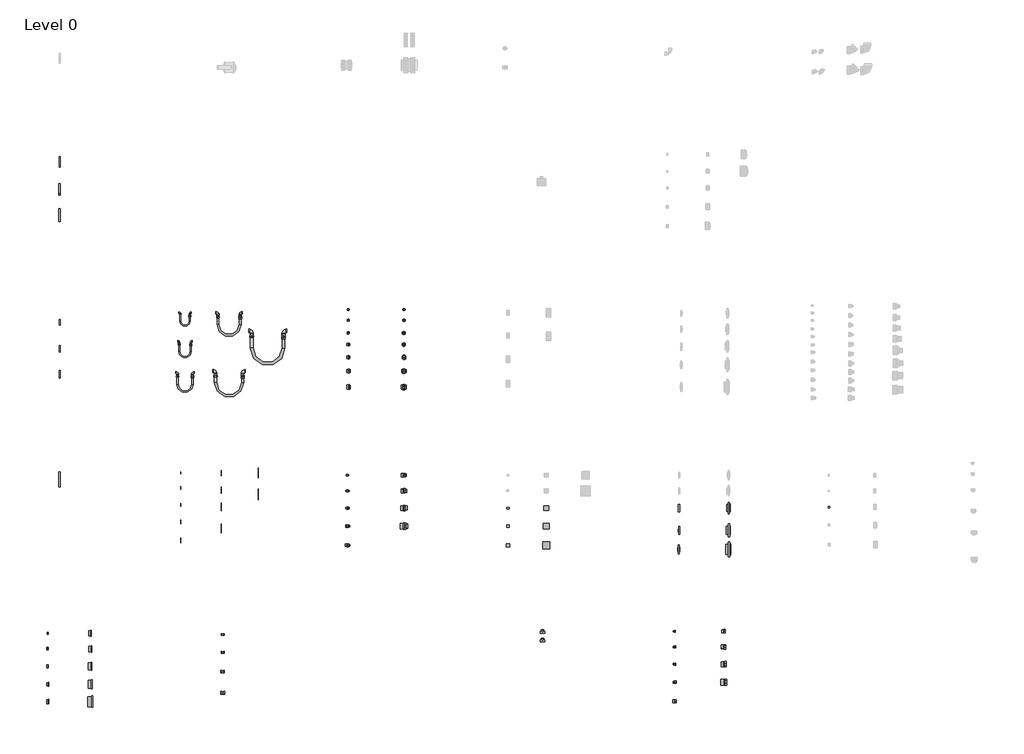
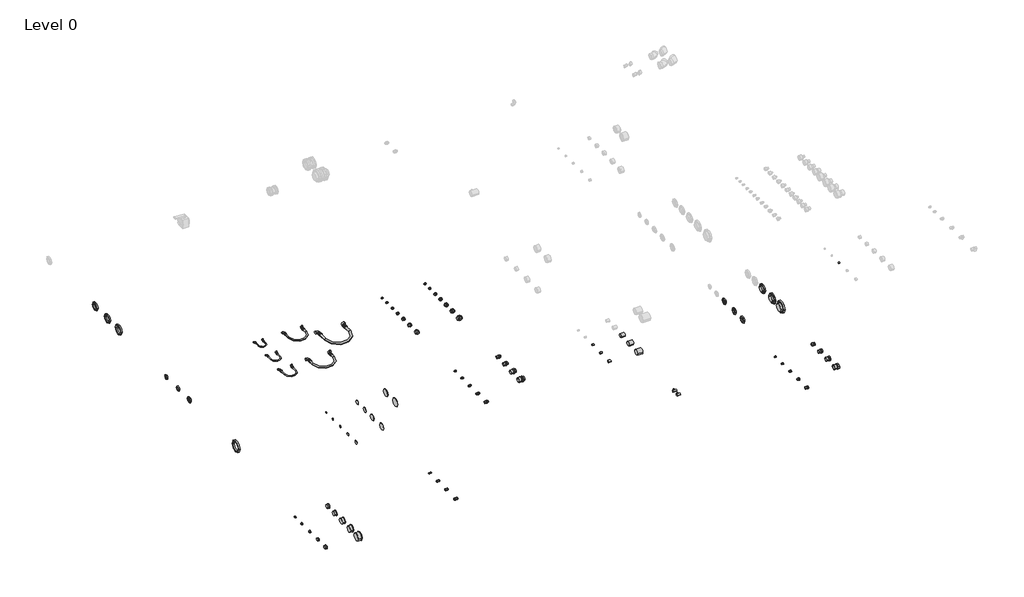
# One storey, part 1 of 3: 114 pipe fittings.
"""IFC4 building model written with IfcOpenShell, lengths in millimetres."""

from ifc_helpers import new_model, si_unit, origin, place, context, project, spatial, transform, mapped, element, save
from components import pipe_fitting_74fe0cda, pipe_fitting_26546776, pipe_fitting_7ebbfda9, pipe_fitting_af003660, pipe_fitting_4f39839b, pipe_fitting_48a578fe, pipe_fitting_dd4062d5, pipe_fitting_99158ac7, pipe_fitting_41a58208, pipe_fitting_e6044224, pipe_fitting_eb40a504, pipe_fitting_ad0d2320, pipe_fitting_09979d7b, pipe_fitting_f6b52654, pipe_fitting_aa44475f, pipe_fitting_78fec043, pipe_fitting_2d7bc59a, pipe_fitting_39144a0a, pipe_fitting_ed674d28, flangewithoutgasket_flangewithoutgasket_0e128e97, flangewithoutgasket_flangewithoutgasket_53bb87d2, flangewithoutgasket_flangewithoutgasket_258abd56, flangewithoutgasket_flangewithoutgasket_c11ec761, flangewithoutgasket_flangewithoutgasket_75658ef2, flangewithoutgasket_flangewithoutgasket_0f328faf, flangewithoutgasket_flangewithoutgasket_49f34aa9, flangewithoutgasket_flangewithoutgasket_a3025326, flangewithoutgasket_flangewithoutgasket_a6fb7cc9, flangewithoutgasket_flangewithoutgasket_14cefbc4, pn16black8holes_365e30ae, pipe_fitting_cafe6cda, pipe_fitting_110mm_a73aa8ea, pn16black8holes_7e1fbb1e, pipe_fitting_fe60b640, pipe_fitting_140mm_9ba9e9db, pn16white8holes_36106536, pipe_fitting_9fa2a6c1, pipe_fitting_16mm_a639df83, pipe_fitting_16mm_9fa1f050, pipe_fitting_16mm_104f3ea7, pipe_fitting_10325621, pipe_fitting_e89df3ce, pipe_fitting_20mm_36528bfd, pipe_fitting_20mm_e1226f67, pipe_fitting_20mm_8d208683, pipe_fitting_f4d23bf6, pipe_fitting_6ce85c79, pipe_fitting_64e7bc61, pn16white4holes_fb9759ab, pipe_fitting_25mm_7ae6cada, pipe_fitting_d7823302, pipe_fitting_25mm_762900c0, pipe_fitting_25mm_d2b8e11e, pipe_fitting_25mm_3604a4b6, pipe_fitting_671cbdc4, pipe_fitting_1b9ebeb7, pipe_fitting_cf8f43cd, pn16white4holes_4982ff81, pipe_fitting_32mm_8bc5c4ab, pipe_fitting_fd8ec18c, pipe_fitting_32mm_dbaa466c, pipe_fitting_32mm_4c8309c4, pipe_fitting_32mm_82b8e66e, pipe_fitting_64368580, pipe_fitting_d05b4815, pipe_fitting_d3e3ceca, pipe_fitting_5afb52ec, pipe_fitting_32mm_x_25mm_bc47e7f9, pipe_fitting_5b97bfdf, pn16white4holes_9e65e146, pipe_fitting_40mm_19036f9e, pipe_fitting_a441c342, pipe_fitting_40mm_6c416c40, pipe_fitting_40mm_46e993db, pipe_fitting_eeb10d21, pipe_fitting_8dd53835, pipe_fitting_f3632e28, pipe_fitting_50mm_91f10f9e, pipe_fitting_39515eb4, pipe_fitting_50mm_1a663d99, pipe_fitting_0e4c5e2e, pipe_fitting_18db0e3b, pipe_fitting_64b93f67, pipe_fitting_ff2e170f, pipe_fitting_63mm_3e72b1f9, pipe_fitting_3a19f61f, pipe_fitting_857b2c1c, pipe_fitting_bdc568c9, pipe_fitting_b1952d91, pipe_fitting_75mm_dd20a809, pipe_fitting_5466f294, pipe_fitting_128ca521, pn16black8holes_1ed16b56, pipe_fitting_2be26bb4, pipe_fitting_90mm_a3f2d70a, pipe_fitting_c5c13b10, pipe_fitting_61c3294d, pn16black4holes_3e359ce1, pn16black4holes_800fe3a9

model = new_model("IFC4")

# Units and contexts
model_context = context("Model", 3, world=origin())
ifc_project = project(units=[si_unit("LENGTHUNIT", "METRE", prefix="MILLI")], contexts=[model_context])

# Site, building, storey
site = spatial("IfcSite", under=ifc_project)
building = spatial("IfcBuilding", under=site)
storey = spatial("IfcBuildingStorey", under=building, Name="Level 0", Elevation=0.0)

# Pipe fittings
placement = place(None, origin())
pipe_fitting_shape = pipe_fitting_74fe0cda(model_context)
element("IfcPipeFitting", 1, ObjectType="PipeFitting_GirpiHTA_CPVC_ThreadedElbows90°_ForExpansionJoints : PipeFitting_GirpiHTA_CPVC_ThreadedElbows90°_ForExpansionJoints", at=placement, inside=storey, context=model_context, shape_type="MappedRepresentation", body=[
    mapped(pipe_fitting_shape, transform((11369.1945596, -4505.198517, 0.0), x_axis=(0.0, 1.0000000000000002, 0.0), y_axis=(-1.0000000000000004, 0.0, 0.0), z_axis=(0.0, 0.0, 1.0000000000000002))),
])
pipe_fitting_2_shape = pipe_fitting_26546776(model_context)
element("IfcPipeFitting", 2, ObjectType="PipeFitting_GirpiHTA_CPVC_Elbows_ForExpansionJoints : PipeFitting_GirpiHTA_CPVC_Elbows_ForExpansionJoints", at=placement, inside=storey, context=model_context, shape_type="MappedRepresentation", body=[
    mapped(pipe_fitting_2_shape, transform((11549.1945596, -4505.198517, 0.0), x_axis=(-1.0000000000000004, 0.0, 0.0), y_axis=(0.0, -1.0000000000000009, 0.0), z_axis=(0.0, 0.0, 1.0000000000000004))),
])
pipe_fitting_3_shape = pipe_fitting_7ebbfda9(model_context)
element("IfcPipeFitting", 3, ObjectType="PipeFitting_GirpiHTA_CPVC_AdaptorNipplesB_ForExpansionJoints : PipeFitting_GirpiHTA_CPVC_AdaptorNipplesB_ForExpansionJoints", at=placement, inside=storey, context=model_context, shape_type="MappedRepresentation", body=[
    mapped(pipe_fitting_3_shape, transform((11549.1945596, -4537.448517, 0.0), x_axis=(0.0, -1.0000000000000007, 0.0), y_axis=(1.0000000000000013, 0.0, 0.0), z_axis=(0.0, 0.0, 1.0000000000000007))),
])
pipe_fitting_4_shape = pipe_fitting_af003660(model_context)
element("IfcPipeFitting", 4, ObjectType="PipeFitting_GirpiHTA_CPVC_Elbows_ForExpansionJoints : PipeFitting_GirpiHTA_CPVC_Elbows_ForExpansionJoints", at=placement, inside=storey, context=model_context, shape_type="MappedRepresentation", body=[
    mapped(pipe_fitting_4_shape, transform((11349.1945596, -5045.198517, 0.0), x_axis=(0.0, 1.0000000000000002, 0.0), y_axis=(-1.0000000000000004, 0.0, 0.0), z_axis=(0.0, 0.0, 1.0000000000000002))),
])
element("IfcPipeFitting", 5, ObjectType="PipeFitting_GirpiHTA_CPVC_Elbows_ForExpansionJoints : PipeFitting_GirpiHTA_CPVC_Elbows_ForExpansionJoints", at=placement, inside=storey, context=model_context, shape_type="MappedRepresentation", body=[
    mapped(pipe_fitting_4_shape, transform((11569.1945596, -5045.198517, 0.0), x_axis=(-1.0000000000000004, 0.0, 0.0), y_axis=(0.0, -1.0000000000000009, 0.0), z_axis=(0.0, 0.0, 1.0000000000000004))),
])
pipe_fitting_5_shape = pipe_fitting_4f39839b(model_context)
element("IfcPipeFitting", 6, ObjectType="PipeFitting_GirpiHTA_CPVC_AdaptorNipplesA_ForExpansionJoints : PipeFitting_GirpiHTA_CPVC_AdaptorNipplesA_ForExpansionJoints", at=placement, inside=storey, context=model_context, shape_type="MappedRepresentation", body=[
    mapped(pipe_fitting_5_shape, transform((11569.1945596, -5102.198517, 0.0), x_axis=(0.0, -1.0000000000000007, 0.0), y_axis=(1.0000000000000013, 0.0, 0.0), z_axis=(0.0, 0.0, 1.0000000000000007))),
])
pipe_fitting_6_shape = pipe_fitting_48a578fe(model_context)
element("IfcPipeFitting", 7, ObjectType="PipeFitting_GirpiHTA_CPVC_ThreadedAdaptors_ForExpansionJoints : PipeFitting_GirpiHTA_CPVC_ThreadedAdaptors_ForExpansionJoints", at=placement, inside=storey, context=model_context, shape_type="MappedRepresentation", body=[
    mapped(pipe_fitting_6_shape, transform((11349.1945596, -5080.448517, 0.0), x_axis=(0.0, -1.0000000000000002, 0.0), y_axis=(1.0000000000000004, 0.0, 0.0), z_axis=(0.0, 0.0, 1.0000000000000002))),
])
pipe_fitting_7_shape = pipe_fitting_dd4062d5(model_context)
element("IfcPipeFitting", 8, ObjectType="PipeFitting_GirpiHTA_CPVC_Elbows_ForExpansionJoints : PipeFitting_GirpiHTA_CPVC_Elbows_ForExpansionJoints", at=placement, inside=storey, context=model_context, shape_type="MappedRepresentation", body=[
    mapped(pipe_fitting_7_shape, transform((11319.1945596, -5635.198517, 0.0), x_axis=(0.0, 1.0000000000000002, 0.0), y_axis=(-1.0000000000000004, 0.0, 0.0), z_axis=(0.0, 0.0, 1.0000000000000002))),
])
element("IfcPipeFitting", 9, ObjectType="PipeFitting_GirpiHTA_CPVC_Elbows_ForExpansionJoints : PipeFitting_GirpiHTA_CPVC_Elbows_ForExpansionJoints", at=placement, inside=storey, context=model_context, shape_type="MappedRepresentation", body=[
    mapped(pipe_fitting_7_shape, transform((11599.1945596, -5635.198517, 0.0), x_axis=(-1.0000000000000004, 0.0, 0.0), y_axis=(0.0, -1.0000000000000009, 0.0), z_axis=(0.0, 0.0, 1.0000000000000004))),
])
pipe_fitting_8_shape = pipe_fitting_99158ac7(model_context)
element("IfcPipeFitting", 10, ObjectType="PipeFitting_GirpiHTA_CPVC_AdaptorNipplesA_ForExpansionJoints : PipeFitting_GirpiHTA_CPVC_AdaptorNipplesA_ForExpansionJoints", at=placement, inside=storey, context=model_context, shape_type="MappedRepresentation", body=[
    mapped(pipe_fitting_8_shape, transform((11599.1945596, -5700.948517, 0.0), x_axis=(0.0, -1.0000000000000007, 0.0), y_axis=(1.0000000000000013, 0.0, 0.0), z_axis=(0.0, 0.0, 1.0000000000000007))),
])
pipe_fitting_9_shape = pipe_fitting_41a58208(model_context)
element("IfcPipeFitting", 11, ObjectType="PipeFitting_GirpiHTA_CPVC_ThreadedAdaptors_ForExpansionJoints : PipeFitting_GirpiHTA_CPVC_ThreadedAdaptors_ForExpansionJoints", at=placement, inside=storey, context=model_context, shape_type="MappedRepresentation", body=[
    mapped(pipe_fitting_9_shape, transform((11319.1945596, -5677.948517, 0.0), x_axis=(0.0, -1.0000000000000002, 0.0), y_axis=(1.0000000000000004, 0.0, 0.0), z_axis=(0.0, 0.0, 1.0000000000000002))),
])
pipe_fitting_10_shape = pipe_fitting_e6044224(model_context)
element("IfcPipeFitting", 12, ObjectType="PipeFitting_GirpiHTA_CPVC_Elbows_ForExpansionJoints : PipeFitting_GirpiHTA_CPVC_Elbows_ForExpansionJoints", at=placement, inside=storey, context=model_context, shape_type="MappedRepresentation", body=[
    mapped(pipe_fitting_10_shape, transform((12079.1945596, -4505.198517, 0.0), x_axis=(0.0, 1.0000000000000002, 0.0), y_axis=(-1.0000000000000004, 0.0, 0.0), z_axis=(0.0, 0.0, 1.0000000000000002))),
])
element("IfcPipeFitting", 13, ObjectType="PipeFitting_GirpiHTA_CPVC_Elbows_ForExpansionJoints : PipeFitting_GirpiHTA_CPVC_Elbows_ForExpansionJoints", at=placement, inside=storey, context=model_context, shape_type="MappedRepresentation", body=[
    mapped(pipe_fitting_10_shape, transform((12499.1945596, -4505.198517, 0.0), x_axis=(-1.0000000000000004, 0.0, 0.0), y_axis=(0.0, -1.0000000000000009, 0.0), z_axis=(0.0, 0.0, 1.0000000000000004))),
])
pipe_fitting_11_shape = pipe_fitting_eb40a504(model_context)
element("IfcPipeFitting", 14, ObjectType="PipeFitting_GirpiHTA_CPVC_AdaptorNipplesA_ForExpansionJoints : PipeFitting_GirpiHTA_CPVC_AdaptorNipplesA_ForExpansionJoints", at=placement, inside=storey, context=model_context, shape_type="MappedRepresentation", body=[
    mapped(pipe_fitting_11_shape, transform((12499.1945596, -4583.198517, 0.0), x_axis=(0.0, -1.0000000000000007, 0.0), y_axis=(1.0000000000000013, 0.0, 0.0), z_axis=(0.0, 0.0, 1.0000000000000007))),
])
pipe_fitting_12_shape = pipe_fitting_ad0d2320(model_context)
element("IfcPipeFitting", 15, ObjectType="PipeFitting_GirpiHTA_CPVC_ThreadedAdaptors_ForExpansionJoints : PipeFitting_GirpiHTA_CPVC_ThreadedAdaptors_ForExpansionJoints", at=placement, inside=storey, context=model_context, shape_type="MappedRepresentation", body=[
    mapped(pipe_fitting_12_shape, transform((12079.1945596, -4556.698517, 0.0), x_axis=(0.0, -1.0000000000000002, 0.0), y_axis=(1.0000000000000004, 0.0, 0.0), z_axis=(0.0, 0.0, 1.0000000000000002))),
])
pipe_fitting_13_shape = pipe_fitting_09979d7b(model_context)
element("IfcPipeFitting", 16, ObjectType="PipeFitting_GirpiHTA_CPVC_Elbows_ForExpansionJoints : PipeFitting_GirpiHTA_CPVC_Elbows_ForExpansionJoints", at=placement, inside=storey, context=model_context, shape_type="MappedRepresentation", body=[
    mapped(pipe_fitting_13_shape, transform((12034.1945596, -5605.198517, 0.0), x_axis=(0.0, 1.0000000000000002, 0.0), y_axis=(-1.0000000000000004, 0.0, 0.0), z_axis=(0.0, 0.0, 1.0000000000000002))),
])
element("IfcPipeFitting", 17, ObjectType="PipeFitting_GirpiHTA_CPVC_Elbows_ForExpansionJoints : PipeFitting_GirpiHTA_CPVC_Elbows_ForExpansionJoints", at=placement, inside=storey, context=model_context, shape_type="MappedRepresentation", body=[
    mapped(pipe_fitting_13_shape, transform((12544.1945596, -5605.198517, 0.0), x_axis=(-1.0000000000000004, 0.0, 0.0), y_axis=(0.0, -1.0000000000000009, 0.0), z_axis=(0.0, 0.0, 1.0000000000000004))),
])
pipe_fitting_14_shape = pipe_fitting_f6b52654(model_context)
element("IfcPipeFitting", 18, ObjectType="PipeFitting_GirpiHTA_CPVC_AdaptorNipplesA_ForExpansionJoints : PipeFitting_GirpiHTA_CPVC_AdaptorNipplesA_ForExpansionJoints", at=placement, inside=storey, context=model_context, shape_type="MappedRepresentation", body=[
    mapped(pipe_fitting_14_shape, transform((12544.1945596, -5696.698517, 0.0), x_axis=(0.0, -1.0000000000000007, 0.0), y_axis=(1.0000000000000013, 0.0, 0.0), z_axis=(0.0, 0.0, 1.0000000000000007))),
])
pipe_fitting_15_shape = pipe_fitting_aa44475f(model_context)
element("IfcPipeFitting", 19, ObjectType="PipeFitting_GirpiHTA_CPVC_ThreadedAdaptors_ForExpansionJoints : PipeFitting_GirpiHTA_CPVC_ThreadedAdaptors_ForExpansionJoints", at=placement, inside=storey, context=model_context, shape_type="MappedRepresentation", body=[
    mapped(pipe_fitting_15_shape, transform((12034.1945596, -5669.198517, 0.0), x_axis=(0.0, -1.0000000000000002, 0.0), y_axis=(1.0000000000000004, 0.0, 0.0), z_axis=(0.0, 0.0, 1.0000000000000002))),
])
pipe_fitting_16_shape = pipe_fitting_78fec043(model_context)
element("IfcPipeFitting", 20, ObjectType="PipeFitting_GirpiHTA_CPVC_Elbows_ForExpansionJoints : PipeFitting_GirpiHTA_CPVC_Elbows_ForExpansionJoints", at=placement, inside=storey, context=model_context, shape_type="MappedRepresentation", body=[
    mapped(pipe_fitting_16_shape, transform((12715.6501, -4847.3271712, 0.0), x_axis=(0.0, 1.0000000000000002, 0.0), y_axis=(-1.0000000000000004, 0.0, 0.0), z_axis=(0.0, 0.0, 1.0000000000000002))),
])
element("IfcPipeFitting", 21, ObjectType="PipeFitting_GirpiHTA_CPVC_Elbows_ForExpansionJoints : PipeFitting_GirpiHTA_CPVC_Elbows_ForExpansionJoints", at=placement, inside=storey, context=model_context, shape_type="MappedRepresentation", body=[
    mapped(pipe_fitting_16_shape, transform((13315.6501, -4847.3271712, 0.0), x_axis=(-1.0000000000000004, 0.0, 0.0), y_axis=(0.0, -1.0000000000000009, 0.0), z_axis=(0.0, 0.0, 1.0000000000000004))),
])
pipe_fitting_17_shape = pipe_fitting_2d7bc59a(model_context)
element("IfcPipeFitting", 22, ObjectType="PipeFitting_GirpiHTA_CPVC_AdaptorNipplesA_ForExpansionJoints : PipeFitting_GirpiHTA_CPVC_AdaptorNipplesA_ForExpansionJoints", at=placement, inside=storey, context=model_context, shape_type="MappedRepresentation", body=[
    mapped(pipe_fitting_17_shape, transform((13315.6501, -4952.5771712, 0.0), x_axis=(0.0, -1.0000000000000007, 0.0), y_axis=(1.0000000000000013, 0.0, 0.0), z_axis=(0.0, 0.0, 1.0000000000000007))),
])
pipe_fitting_18_shape = pipe_fitting_39144a0a(model_context)
element("IfcPipeFitting", 23, ObjectType="PipeFitting_GirpiHTA_CPVC_ThreadedAdaptors_ForExpansionJoints : PipeFitting_GirpiHTA_CPVC_ThreadedAdaptors_ForExpansionJoints", at=placement, inside=storey, context=model_context, shape_type="MappedRepresentation", body=[
    mapped(pipe_fitting_18_shape, transform((12715.6501, -4925.0771712, 0.0), x_axis=(0.0, -1.0000000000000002, 0.0), y_axis=(1.0000000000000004, 0.0, 0.0), z_axis=(0.0, 0.0, 1.0000000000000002))),
])
pipe_fitting_19_shape = pipe_fitting_ed674d28(model_context)
element("IfcPipeFitting", 24, ObjectType="PipeFitting_HTA_CPVC_AdaptorNipplesA : 16 mm x 3/8\"", at=placement, inside=storey, context=model_context, shape_type="MappedRepresentation", body=[
    mapped(pipe_fitting_19_shape, transform((14519.1945596, -7565.198517, 0.0), x_axis=(1.0, 0.0, 0.0), y_axis=(0.0, 1.0, 0.0), z_axis=(0.0, 0.0, 1.0))),
])
flangewithoutgasket_flangewithoutgasket_shape = flangewithoutgasket_flangewithoutgasket_0e128e97(model_context)
element("IfcPipeFitting", 25, ObjectType="PipeFitting_HTA_CPVC_SerratedStubFlanges : PipeFitting_HTA_CPVC_SerratedStubFlanges", at=placement, inside=storey, context=model_context, shape_type="MappedRepresentation", body=[
    mapped(flangewithoutgasket_flangewithoutgasket_shape, transform((9674.1945596, -11830.198517, 0.0), x_axis=(1.0, 0.0, 0.0), y_axis=(0.0, 1.0, 0.0), z_axis=(0.0, 0.0, 1.0))),
])
flangewithoutgasket_flangewithoutgasket_2_shape = flangewithoutgasket_flangewithoutgasket_53bb87d2(model_context)
element("IfcPipeFitting", 26, ObjectType="PipeFitting_HTA_CPVC_SerratedStubFlanges : PipeFitting_HTA_CPVC_SerratedStubFlanges", at=placement, inside=storey, context=model_context, shape_type="MappedRepresentation", body=[
    mapped(flangewithoutgasket_flangewithoutgasket_2_shape, transform((8874.1945596, -10545.198517, 0.0), x_axis=(1.0, 0.0, 0.0), y_axis=(0.0, 1.0, 0.0), z_axis=(0.0, 0.0, 1.0))),
])
flangewithoutgasket_flangewithoutgasket_3_shape = flangewithoutgasket_flangewithoutgasket_258abd56(model_context)
element("IfcPipeFitting", 27, ObjectType="PipeFitting_HTA_CPVC_SerratedStubFlanges : PipeFitting_HTA_CPVC_SerratedStubFlanges", at=placement, inside=storey, context=model_context, shape_type="MappedRepresentation", body=[
    mapped(flangewithoutgasket_flangewithoutgasket_3_shape, transform((8874.1945596, -10830.198517, 0.0), x_axis=(1.0, 0.0, 0.0), y_axis=(0.0, 1.0, 0.0), z_axis=(0.0, 0.0, 1.0))),
])
flangewithoutgasket_flangewithoutgasket_4_shape = flangewithoutgasket_flangewithoutgasket_c11ec761(model_context)
element("IfcPipeFitting", 28, ObjectType="PipeFitting_HTA_CPVC_SerratedStubFlanges : PipeFitting_HTA_CPVC_SerratedStubFlanges", at=placement, inside=storey, context=model_context, shape_type="MappedRepresentation", body=[
    mapped(flangewithoutgasket_flangewithoutgasket_4_shape, transform((8874.1945596, -11165.198517, 0.0), x_axis=(1.0, 0.0, 0.0), y_axis=(0.0, 1.0, 0.0), z_axis=(0.0, 0.0, 1.0))),
])
flangewithoutgasket_flangewithoutgasket_5_shape = flangewithoutgasket_flangewithoutgasket_75658ef2(model_context)
element("IfcPipeFitting", 29, ObjectType="PipeFitting_HTA_CPVC_SerratedStubFlanges : PipeFitting_HTA_CPVC_SerratedStubFlanges", at=placement, inside=storey, context=model_context, shape_type="MappedRepresentation", body=[
    mapped(flangewithoutgasket_flangewithoutgasket_5_shape, transform((8874.1945596, -11505.198517, 0.0), x_axis=(1.0, 0.0, 0.0), y_axis=(0.0, 1.0, 0.0), z_axis=(0.0, 0.0, 1.0))),
])
flangewithoutgasket_flangewithoutgasket_6_shape = flangewithoutgasket_flangewithoutgasket_0f328faf(model_context)
element("IfcPipeFitting", 30, ObjectType="PipeFitting_HTA_CPVC_SerratedStubFlanges : PipeFitting_HTA_CPVC_SerratedStubFlanges", at=placement, inside=storey, context=model_context, shape_type="MappedRepresentation", body=[
    mapped(flangewithoutgasket_flangewithoutgasket_6_shape, transform((8874.1945596, -11830.198517, 0.0), x_axis=(1.0, 0.0, 0.0), y_axis=(0.0, 1.0, 0.0), z_axis=(0.0, 0.0, 1.0))),
])
flangewithoutgasket_flangewithoutgasket_7_shape = flangewithoutgasket_flangewithoutgasket_49f34aa9(model_context)
element("IfcPipeFitting", 31, ObjectType="PipeFitting_HTA_CPVC_SerratedStubFlanges : PipeFitting_HTA_CPVC_SerratedStubFlanges", at=placement, inside=storey, context=model_context, shape_type="MappedRepresentation", body=[
    mapped(flangewithoutgasket_flangewithoutgasket_7_shape, transform((9674.1945596, -10545.198517, 0.0), x_axis=(1.0, 0.0, 0.0), y_axis=(0.0, 1.0, 0.0), z_axis=(0.0, 0.0, 1.0))),
])
flangewithoutgasket_flangewithoutgasket_8_shape = flangewithoutgasket_flangewithoutgasket_a3025326(model_context)
element("IfcPipeFitting", 32, ObjectType="PipeFitting_HTA_CPVC_SerratedStubFlanges : PipeFitting_HTA_CPVC_SerratedStubFlanges", at=placement, inside=storey, context=model_context, shape_type="MappedRepresentation", body=[
    mapped(flangewithoutgasket_flangewithoutgasket_8_shape, transform((9674.1945596, -10840.198517, 0.0), x_axis=(1.0, 0.0, 0.0), y_axis=(0.0, 1.0, 0.0), z_axis=(0.0, 0.0, 1.0))),
])
flangewithoutgasket_flangewithoutgasket_9_shape = flangewithoutgasket_flangewithoutgasket_a6fb7cc9(model_context)
element("IfcPipeFitting", 33, ObjectType="PipeFitting_HTA_CPVC_SerratedStubFlanges : PipeFitting_HTA_CPVC_SerratedStubFlanges", at=placement, inside=storey, context=model_context, shape_type="MappedRepresentation", body=[
    mapped(flangewithoutgasket_flangewithoutgasket_9_shape, transform((9674.1945596, -11165.198517, 0.0), x_axis=(1.0, 0.0, 0.0), y_axis=(0.0, 1.0, 0.0), z_axis=(0.0, 0.0, 1.0))),
])
flangewithoutgasket_flangewithoutgasket_10_shape = flangewithoutgasket_flangewithoutgasket_14cefbc4(model_context)
element("IfcPipeFitting", 34, ObjectType="PipeFitting_HTA_CPVC_SerratedStubFlanges : PipeFitting_HTA_CPVC_SerratedStubFlanges", at=placement, inside=storey, context=model_context, shape_type="MappedRepresentation", body=[
    mapped(flangewithoutgasket_flangewithoutgasket_10_shape, transform((9674.1945596, -11505.198517, 0.0), x_axis=(1.0, 0.0, 0.0), y_axis=(0.0, 1.0, 0.0), z_axis=(0.0, 0.0, 1.0))),
])
pn16black8holes_shape = pn16black8holes_365e30ae(model_context)
element("IfcPipeFitting", 35, ObjectType="PipeAccessory_HTA_CPVC_BackingRingsPN16Black8Holes : 110mm", at=placement, inside=storey, context=model_context, shape_type="MappedRepresentation", body=[
    mapped(pn16black8holes_shape, transform((9099.1945596, -2185.198517, 0.0), x_axis=(1.0, 0.0, 0.0), y_axis=(0.0, 1.0, 0.0), z_axis=(0.0, 0.0, 1.0))),
])
pipe_fitting_20_shape = pipe_fitting_cafe6cda(model_context)
element("IfcPipeFitting", 36, ObjectType="PipeAccessory_HTA_CPVC_FlatGasketsForFlangeAdaptors : 110mm", at=placement, inside=storey, context=model_context, shape_type="MappedRepresentation", body=[
    mapped(pipe_fitting_20_shape, transform((12139.1945596, -8165.198517, 0.0), x_axis=(1.0, 0.0, 0.0), y_axis=(0.0, 1.0, 0.0), z_axis=(0.0, 0.0, 1.0))),
])
pipe_fitting_110mm_shape = pipe_fitting_110mm_a73aa8ea(model_context)
element("IfcPipeFitting", 37, ObjectType="PipeFitting_HTA_CPVC_Couplings : 110mm", at=placement, inside=storey, context=model_context, shape_type="MappedRepresentation", body=[
    mapped(pipe_fitting_110mm_shape, transform((18259.1945596, -8885.198517, 0.0), x_axis=(1.0, 0.0, 0.0), y_axis=(0.0, 1.0, 0.0), z_axis=(0.0, 0.0, 1.0))),
])
pn16black8holes_2_shape = pn16black8holes_7e1fbb1e(model_context)
element("IfcPipeFitting", 38, ObjectType="PipeAccessory_HTA_CPVC_BackingRingsPN16Black8Holes : 125mm", at=placement, inside=storey, context=model_context, shape_type="MappedRepresentation", body=[
    mapped(pn16black8holes_2_shape, transform((9099.1945596, -2665.198517, 0.0), x_axis=(1.0, 0.0, 0.0), y_axis=(0.0, 1.0, 0.0), z_axis=(0.0, 0.0, 1.0))),
])
pipe_fitting_21_shape = pipe_fitting_fe60b640(model_context)
element("IfcPipeFitting", 39, ObjectType="PipeAccessory_HTA_CPVC_FlatGasketsForFlangeAdaptors : 125mm", at=placement, inside=storey, context=model_context, shape_type="MappedRepresentation", body=[
    mapped(pipe_fitting_21_shape, transform((12139.1945596, -8565.198517, 0.0), x_axis=(1.0, 0.0, 0.0), y_axis=(0.0, 1.0, 0.0), z_axis=(0.0, 0.0, 1.0))),
])
pipe_fitting_140mm_shape = pipe_fitting_140mm_9ba9e9db(model_context)
element("IfcPipeFitting", 40, ObjectType="PipeAccessory_HTA_CPVC_FlatGasketsForFlangeAdaptors : 140mm", at=placement, inside=storey, context=model_context, shape_type="MappedRepresentation", body=[
    mapped(pipe_fitting_140mm_shape, transform((12839.1945596, -7525.198517, 0.0), x_axis=(1.0, 0.0, 0.0), y_axis=(0.0, 1.0, 0.0), z_axis=(0.0, 0.0, 1.0))),
])
pn16white8holes_shape = pn16white8holes_36106536(model_context)
element("IfcPipeFitting", 41, ObjectType="PipeAccessory_HTA_CPVC_BackingRingsPN16White8Holes : 160mm", at=placement, inside=storey, context=model_context, shape_type="MappedRepresentation", body=[
    mapped(pn16white8holes_shape, transform((9099.1945596, -7645.198517, 0.0), x_axis=(1.0, 0.0, 0.0), y_axis=(0.0, 1.0, 0.0), z_axis=(0.0, 0.0, 1.0))),
])
pipe_fitting_22_shape = pipe_fitting_9fa2a6c1(model_context)
element("IfcPipeFitting", 42, ObjectType="PipeAccessory_HTA_CPVC_FlatGasketsForFlangeAdaptors : 160mm", at=placement, inside=storey, context=model_context, shape_type="MappedRepresentation", body=[
    mapped(pipe_fitting_22_shape, transform((12839.1945596, -7925.198517, 0.0), x_axis=(1.0, 0.0, 0.0), y_axis=(0.0, 1.0, 0.0), z_axis=(0.0, 0.0, 1.0))),
])
pipe_fitting_16mm_shape = pipe_fitting_16mm_a639df83(model_context)
element("IfcPipeFitting", 43, ObjectType="PipeAccessory_HTA_CPVC_ExpansionJoints : 16mm", at=placement, inside=storey, context=model_context, shape_type="MappedRepresentation", body=[
    mapped(pipe_fitting_16mm_shape, transform((11459.1945596, -4661.198517, 0.0), x_axis=(1.0, 0.0, 0.0), y_axis=(0.0, 1.0, 0.0), z_axis=(0.0, 0.0, 1.0))),
])
pipe_fitting_16mm_2_shape = pipe_fitting_16mm_9fa1f050(model_context)
element("IfcPipeFitting", 44, ObjectType="PipeFitting_HTA_CPVC_3PieceUnions_CPVC : 16mm", at=placement, inside=storey, context=model_context, shape_type="MappedRepresentation", body=[
    mapped(pipe_fitting_16mm_2_shape, transform((15579.1945596, -4445.198517, 0.0), x_axis=(1.0, 0.0, 0.0), y_axis=(0.0, 1.0, 0.0), z_axis=(0.0, 0.0, 1.0))),
])
pipe_fitting_16mm_3_shape = pipe_fitting_16mm_104f3ea7(model_context)
element("IfcPipeFitting", 45, ObjectType="PipeFitting_HTA_CPVC_StraightCouplingsThermocouples : 16mm", at=placement, inside=storey, context=model_context, shape_type="MappedRepresentation", body=[
    mapped(pipe_fitting_16mm_3_shape, transform((12169.1945596, -10565.198517, 0.0), x_axis=(1.0, 0.0, 0.0), y_axis=(0.0, 1.0, 0.0), z_axis=(0.0, 0.0, 1.0))),
])
pipe_fitting_23_shape = pipe_fitting_10325621(model_context)
element("IfcPipeFitting", 46, ObjectType="PipeFitting_HTA_CPVC_3PieceUnions_(CPVC-Brass) : 16mm x 3/8\"", at=placement, inside=storey, context=model_context, shape_type="MappedRepresentation", body=[
    mapped(pipe_fitting_23_shape, transform((14519.1945596, -4445.198517, 0.0), x_axis=(1.0, 0.0, 0.0), y_axis=(0.0, 1.0, 0.0), z_axis=(0.0, 0.0, 1.0))),
])
pipe_fitting_24_shape = pipe_fitting_e89df3ce(model_context)
element("IfcPipeFitting", 47, ObjectType="PipeFitting_HTA_CPVC_ThreadedAdaptors : 16mm x 3/8\"", at=placement, inside=storey, context=model_context, shape_type="MappedRepresentation", body=[
    mapped(pipe_fitting_24_shape, transform((20659.1945596, -10505.198517, 0.0), x_axis=(1.0, 0.0, 0.0), y_axis=(0.0, 1.0, 0.0), z_axis=(0.0, 0.0, 1.0))),
])
pipe_fitting_20mm_shape = pipe_fitting_20mm_36528bfd(model_context)
element("IfcPipeFitting", 48, ObjectType="PipeAccessory_HTA_CPVC_ExpansionJoints : 20mm", at=placement, inside=storey, context=model_context, shape_type="MappedRepresentation", body=[
    mapped(pipe_fitting_20mm_shape, transform((11459.1945596, -5234.198517, 0.0), x_axis=(1.0, 0.0, 0.0), y_axis=(0.0, 1.0, 0.0), z_axis=(0.0, 0.0, 1.0))),
])
pipe_fitting_20mm_2_shape = pipe_fitting_20mm_e1226f67(model_context)
element("IfcPipeFitting", 49, ObjectType="PipeFitting_HTA_CPVC_3PieceUnions_CPVC : 20mm", at=placement, inside=storey, context=model_context, shape_type="MappedRepresentation", body=[
    mapped(pipe_fitting_20mm_2_shape, transform((15579.1945596, -4645.198517, 0.0), x_axis=(1.0, 0.0, 0.0), y_axis=(0.0, 1.0, 0.0), z_axis=(0.0, 0.0, 1.0))),
])
pipe_fitting_20mm_3_shape = pipe_fitting_20mm_8d208683(model_context)
element("IfcPipeFitting", 50, ObjectType="PipeFitting_HTA_CPVC_StraightCouplingsThermocouples : 20mm", at=placement, inside=storey, context=model_context, shape_type="MappedRepresentation", body=[
    mapped(pipe_fitting_20mm_3_shape, transform((12169.1945596, -10905.198517, 0.0), x_axis=(1.0, 0.0, 0.0), y_axis=(0.0, 1.0, 0.0), z_axis=(0.0, 0.0, 1.0))),
])
pipe_fitting_25_shape = pipe_fitting_f4d23bf6(model_context)
element("IfcPipeFitting", 51, ObjectType="PipeFitting_HTA_CPVC_3PieceUnions_(CPVC-Brass) : 20mm x 1/2\"", at=placement, inside=storey, context=model_context, shape_type="MappedRepresentation", body=[
    mapped(pipe_fitting_25_shape, transform((14519.1945596, -4645.198517, 0.0), x_axis=(1.0, 0.0, 0.0), y_axis=(0.0, 1.0, 0.0), z_axis=(0.0, 0.0, 1.0))),
])
pipe_fitting_26_shape = pipe_fitting_6ce85c79(model_context)
element("IfcPipeFitting", 52, ObjectType="PipeFitting_HTA_CPVC_AdaptorNipplesA : 20mm x 1/2\"", at=placement, inside=storey, context=model_context, shape_type="MappedRepresentation", body=[
    mapped(pipe_fitting_26_shape, transform((14519.1945596, -7860.198517, 0.0), x_axis=(1.0, 0.0, 0.0), y_axis=(0.0, 1.0, 0.0), z_axis=(0.0, 0.0, 1.0))),
])
pipe_fitting_27_shape = pipe_fitting_64e7bc61(model_context)
element("IfcPipeFitting", 53, ObjectType="PipeFitting_HTA_CPVC_ThreadedAdaptors : 20mm x 1/2\"", at=placement, inside=storey, context=model_context, shape_type="MappedRepresentation", body=[
    mapped(pipe_fitting_27_shape, transform((20659.1945596, -10800.198517, 0.0), x_axis=(1.0, 0.0, 0.0), y_axis=(0.0, 1.0, 0.0), z_axis=(0.0, 0.0, 1.0))),
])
pn16white4holes_shape = pn16white4holes_fb9759ab(model_context)
element("IfcPipeFitting", 54, ObjectType="PipeAccessory_HTA_CPVC_BackingRingsPN16White4Holes : 25mm", at=placement, inside=storey, context=model_context, shape_type="MappedRepresentation", body=[
    mapped(pn16white4holes_shape, transform((9099.1945596, -4685.198517, 0.0), x_axis=(1.0, 0.0, 0.0), y_axis=(0.0, 1.0, 0.0), z_axis=(0.0, 0.0, 1.0))),
])
pipe_fitting_25mm_shape = pipe_fitting_25mm_7ae6cada(model_context)
element("IfcPipeFitting", 55, ObjectType="PipeAccessory_HTA_CPVC_ExpansionJoints : 25mm", at=placement, inside=storey, context=model_context, shape_type="MappedRepresentation", body=[
    mapped(pipe_fitting_25mm_shape, transform((11459.1945596, -5853.698517, 0.0), x_axis=(1.0, 0.0, 0.0), y_axis=(0.0, 1.0, 0.0), z_axis=(0.0, 0.0, 1.0))),
])
pipe_fitting_28_shape = pipe_fitting_d7823302(model_context)
element("IfcPipeFitting", 56, ObjectType="PipeAccessory_HTA_CPVC_FlatGasketsForFlangeAdaptors : 25mm", at=placement, inside=storey, context=model_context, shape_type="MappedRepresentation", body=[
    mapped(pipe_fitting_28_shape, transform((11379.1945596, -7525.198517, 0.0), x_axis=(1.0, 0.0, 0.0), y_axis=(0.0, 1.0, 0.0), z_axis=(0.0, 0.0, 1.0))),
])
pipe_fitting_25mm_2_shape = pipe_fitting_25mm_762900c0(model_context)
element("IfcPipeFitting", 57, ObjectType="PipeFitting_HTA_CPVC_3PieceUnions_CPVC : 25mm", at=placement, inside=storey, context=model_context, shape_type="MappedRepresentation", body=[
    mapped(pipe_fitting_25mm_2_shape, transform((15579.1945596, -4885.198517, 0.0), x_axis=(1.0, 0.0, 0.0), y_axis=(0.0, 1.0, 0.0), z_axis=(0.0, 0.0, 1.0))),
])
pipe_fitting_25mm_3_shape = pipe_fitting_25mm_d2b8e11e(model_context)
element("IfcPipeFitting", 58, ObjectType="PipeFitting_HTA_CPVC_Couplings : 25mm", at=placement, inside=storey, context=model_context, shape_type="MappedRepresentation", body=[
    mapped(pipe_fitting_25mm_3_shape, transform((17539.1945596, -8185.198517, 0.0), x_axis=(1.0, 0.0, 0.0), y_axis=(0.0, 1.0, 0.0), z_axis=(0.0, 0.0, 1.0))),
])
pipe_fitting_25mm_4_shape = pipe_fitting_25mm_3604a4b6(model_context)
element("IfcPipeFitting", 59, ObjectType="PipeFitting_HTA_CPVC_StraightCouplingsThermocouples : 25mm", at=placement, inside=storey, context=model_context, shape_type="MappedRepresentation", body=[
    mapped(pipe_fitting_25mm_4_shape, transform((12169.1945596, -11265.198517, 0.0), x_axis=(1.0, 0.0, 0.0), y_axis=(0.0, 1.0, 0.0), z_axis=(0.0, 0.0, 1.0))),
])
pipe_fitting_29_shape = pipe_fitting_671cbdc4(model_context)
element("IfcPipeFitting", 60, ObjectType="PipeFitting_HTA_CPVC_3PieceUnions_(CPVC-Brass) : 25mm x 3/4\"", at=placement, inside=storey, context=model_context, shape_type="MappedRepresentation", body=[
    mapped(pipe_fitting_29_shape, transform((14519.1945596, -4885.198517, 0.0), x_axis=(1.0, 0.0, 0.0), y_axis=(0.0, 1.0, 0.0), z_axis=(0.0, 0.0, 1.0))),
])
pipe_fitting_30_shape = pipe_fitting_1b9ebeb7(model_context)
element("IfcPipeFitting", 61, ObjectType="PipeFitting_HTA_CPVC_AdaptorNipplesA : 25mm x 3/4\"", at=placement, inside=storey, context=model_context, shape_type="MappedRepresentation", body=[
    mapped(pipe_fitting_30_shape, transform((14519.1945596, -8185.198517, 0.0), x_axis=(1.0, 0.0, 0.0), y_axis=(0.0, 1.0, 0.0), z_axis=(0.0, 0.0, 1.0))),
])
pipe_fitting_31_shape = pipe_fitting_cf8f43cd(model_context)
element("IfcPipeFitting", 62, ObjectType="PipeFitting_HTA_CPVC_ThreadedAdaptors : 25mm x 3/4\"", at=placement, inside=storey, context=model_context, shape_type="MappedRepresentation", body=[
    mapped(pipe_fitting_31_shape, transform((20659.1945596, -11125.198517, 0.0), x_axis=(1.0, 0.0, 0.0), y_axis=(0.0, 1.0, 0.0), z_axis=(0.0, 0.0, 1.0))),
])
pn16white4holes_2_shape = pn16white4holes_4982ff81(model_context)
element("IfcPipeFitting", 63, ObjectType="PipeAccessory_HTA_CPVC_BackingRingsPN16White4Holes : 32mm", at=placement, inside=storey, context=model_context, shape_type="MappedRepresentation", body=[
    mapped(pn16white4holes_2_shape, transform((9099.1945596, -5185.198517, 0.0), x_axis=(1.0, 0.0, 0.0), y_axis=(0.0, 1.0, 0.0), z_axis=(0.0, 0.0, 1.0))),
])
pipe_fitting_32mm_shape = pipe_fitting_32mm_8bc5c4ab(model_context)
element("IfcPipeFitting", 64, ObjectType="PipeAccessory_HTA_CPVC_ExpansionJoints : 32mm", at=placement, inside=storey, context=model_context, shape_type="MappedRepresentation", body=[
    mapped(pipe_fitting_32mm_shape, transform((12289.1945596, -4726.198517, 0.0), x_axis=(1.0, 0.0, 0.0), y_axis=(0.0, 1.0, 0.0), z_axis=(0.0, 0.0, 1.0))),
])
pipe_fitting_32_shape = pipe_fitting_fd8ec18c(model_context)
element("IfcPipeFitting", 65, ObjectType="PipeAccessory_HTA_CPVC_FlatGasketsForFlangeAdaptors : 32mm", at=placement, inside=storey, context=model_context, shape_type="MappedRepresentation", body=[
    mapped(pipe_fitting_32_shape, transform((11379.1945596, -7805.198517, 0.0), x_axis=(1.0, 0.0, 0.0), y_axis=(0.0, 1.0, 0.0), z_axis=(0.0, 0.0, 1.0))),
])
pipe_fitting_32mm_2_shape = pipe_fitting_32mm_dbaa466c(model_context)
element("IfcPipeFitting", 66, ObjectType="PipeFitting_HTA_CPVC_3PieceUnions_CPVC : 32mm", at=placement, inside=storey, context=model_context, shape_type="MappedRepresentation", body=[
    mapped(pipe_fitting_32mm_2_shape, transform((15579.1945596, -5105.198517, 0.0), x_axis=(1.0, 0.0, 0.0), y_axis=(0.0, 1.0, 0.0), z_axis=(0.0, 0.0, 1.0))),
])
pipe_fitting_32mm_3_shape = pipe_fitting_32mm_4c8309c4(model_context)
element("IfcPipeFitting", 67, ObjectType="PipeFitting_HTA_CPVC_Couplings : 32mm", at=placement, inside=storey, context=model_context, shape_type="MappedRepresentation", body=[
    mapped(pipe_fitting_32mm_3_shape, transform((17539.1945596, -8525.198517, 0.0), x_axis=(1.0, 0.0, 0.0), y_axis=(0.0, 1.0, 0.0), z_axis=(0.0, 0.0, 1.0))),
])
pipe_fitting_32mm_4_shape = pipe_fitting_32mm_82b8e66e(model_context)
element("IfcPipeFitting", 68, ObjectType="PipeFitting_HTA_CPVC_StraightCouplingsThermocouples : 32mm", at=placement, inside=storey, context=model_context, shape_type="MappedRepresentation", body=[
    mapped(pipe_fitting_32mm_4_shape, transform((12169.1945596, -11665.198517, 0.0), x_axis=(1.0, 0.0, 0.0), y_axis=(0.0, 1.0, 0.0), z_axis=(0.0, 0.0, 1.0))),
])
pipe_fitting_33_shape = pipe_fitting_64368580(model_context)
element("IfcPipeFitting", 69, ObjectType="PipeFitting_HTA_CPVC_3PieceUnions_(CPVC-Brass) : 32mm x 1\"", at=placement, inside=storey, context=model_context, shape_type="MappedRepresentation", body=[
    mapped(pipe_fitting_33_shape, transform((14519.1945596, -5105.198517, 0.0), x_axis=(1.0, 0.0, 0.0), y_axis=(0.0, 1.0, 0.0), z_axis=(0.0, 0.0, 1.0))),
])
pipe_fitting_34_shape = pipe_fitting_d05b4815(model_context)
element("IfcPipeFitting", 70, ObjectType="PipeFitting_HTA_CPVC_AdaptorNipplesA : 32mm x 1\"", at=placement, inside=storey, context=model_context, shape_type="MappedRepresentation", body=[
    mapped(pipe_fitting_34_shape, transform((14519.1945596, -8525.198517, 0.0), x_axis=(1.0, 0.0, 0.0), y_axis=(0.0, 1.0, 0.0), z_axis=(0.0, 0.0, 1.0))),
])
pipe_fitting_35_shape = pipe_fitting_d3e3ceca(model_context)
element("IfcPipeFitting", 71, ObjectType="PipeFitting_HTA_CPVC_ThreadedAdaptors : 32mm x 1\"", at=placement, inside=storey, context=model_context, shape_type="MappedRepresentation", body=[
    mapped(pipe_fitting_35_shape, transform((20659.1945596, -11465.198517, 0.0), x_axis=(1.0, 0.0, 0.0), y_axis=(0.0, 1.0, 0.0), z_axis=(0.0, 0.0, 1.0))),
])
pipe_fitting_36_shape = pipe_fitting_5afb52ec(model_context)
element("IfcPipeFitting", 72, ObjectType="PipeFitting_HTA_CPVC_Tees90°WithThreadedBrassInsert : 32mm x 1/2\"", at=placement, inside=storey, context=model_context, shape_type="MappedRepresentation", body=[
    mapped(pipe_fitting_36_shape, transform((18189.1945596, -10525.198517, 0.0), x_axis=(1.0, 0.0, 0.0), y_axis=(0.0, 1.0, 0.0), z_axis=(0.0, 0.0, 1.0))),
])
pipe_fitting_32mm_x_25mm_shape = pipe_fitting_32mm_x_25mm_bc47e7f9(model_context)
element("IfcPipeFitting", 73, ObjectType="PipeFitting_HTA_CPVC_ReducingBushesShortPattern : 32mm x 25mm", at=placement, inside=storey, context=model_context, shape_type="MappedRepresentation", body=[
    mapped(pipe_fitting_32mm_x_25mm_shape, transform((23582.1945596, -8165.198517, 0.0), x_axis=(1.0, 0.0, 0.0), y_axis=(0.0, 1.0, 0.0), z_axis=(0.0, 0.0, 1.0))),
])
pipe_fitting_37_shape = pipe_fitting_5b97bfdf(model_context)
element("IfcPipeFitting", 74, ObjectType="PipeFitting_HTA_CPVC_Tees90°WithThreadedBrassInsert : 32mm x 3/4\"", at=placement, inside=storey, context=model_context, shape_type="MappedRepresentation", body=[
    mapped(pipe_fitting_37_shape, transform((18189.1945596, -10685.198517, 0.0), x_axis=(1.0, 0.0, 0.0), y_axis=(0.0, 1.0, 0.0), z_axis=(0.0, 0.0, 1.0))),
])
pn16white4holes_3_shape = pn16white4holes_9e65e146(model_context)
element("IfcPipeFitting", 75, ObjectType="PipeAccessory_HTA_CPVC_BackingRingsPN16White4Holes : 40mm", at=placement, inside=storey, context=model_context, shape_type="MappedRepresentation", body=[
    mapped(pn16white4holes_3_shape, transform((9099.1945596, -5665.198517, 0.0), x_axis=(1.0, 0.0, 0.0), y_axis=(0.0, 1.0, 0.0), z_axis=(0.0, 0.0, 1.0))),
])
pipe_fitting_40mm_shape = pipe_fitting_40mm_19036f9e(model_context)
element("IfcPipeFitting", 76, ObjectType="PipeAccessory_HTA_CPVC_ExpansionJoints : 40mm", at=placement, inside=storey, context=model_context, shape_type="MappedRepresentation", body=[
    mapped(pipe_fitting_40mm_shape, transform((12289.1945596, -5820.698517, 0.0), x_axis=(1.0, 0.0, 0.0), y_axis=(0.0, 1.0, 0.0), z_axis=(0.0, 0.0, 1.0))),
])
pipe_fitting_38_shape = pipe_fitting_a441c342(model_context)
element("IfcPipeFitting", 77, ObjectType="PipeAccessory_HTA_CPVC_FlatGasketsForFlangeAdaptors : 40mm", at=placement, inside=storey, context=model_context, shape_type="MappedRepresentation", body=[
    mapped(pipe_fitting_38_shape, transform((11379.1945596, -8125.198517, 0.0), x_axis=(1.0, 0.0, 0.0), y_axis=(0.0, 1.0, 0.0), z_axis=(0.0, 0.0, 1.0))),
])
pipe_fitting_40mm_2_shape = pipe_fitting_40mm_6c416c40(model_context)
element("IfcPipeFitting", 78, ObjectType="PipeFitting_HTA_CPVC_3PieceUnions_CPVC : 40mm", at=placement, inside=storey, context=model_context, shape_type="MappedRepresentation", body=[
    mapped(pipe_fitting_40mm_2_shape, transform((15579.1945596, -5345.198517, 0.0), x_axis=(1.0, 0.0, 0.0), y_axis=(0.0, 1.0, 0.0), z_axis=(0.0, 0.0, 1.0))),
])
pipe_fitting_40mm_3_shape = pipe_fitting_40mm_46e993db(model_context)
element("IfcPipeFitting", 79, ObjectType="PipeFitting_HTA_CPVC_Couplings : 40mm", at=placement, inside=storey, context=model_context, shape_type="MappedRepresentation", body=[
    mapped(pipe_fitting_40mm_3_shape, transform((17539.1945596, -8885.198517, 0.0), x_axis=(1.0, 0.0, 0.0), y_axis=(0.0, 1.0, 0.0), z_axis=(0.0, 0.0, 1.0))),
])
pipe_fitting_39_shape = pipe_fitting_eeb10d21(model_context)
element("IfcPipeFitting", 80, ObjectType="PipeFitting_HTA_CPVC_3PieceUnions_(CPVC-Brass) : 40mm x 1\"1/4", at=placement, inside=storey, context=model_context, shape_type="MappedRepresentation", body=[
    mapped(pipe_fitting_39_shape, transform((14519.1945596, -5345.198517, 0.0), x_axis=(1.0, 0.0, 0.0), y_axis=(0.0, 1.0, 0.0), z_axis=(0.0, 0.0, 1.0))),
])
pipe_fitting_40_shape = pipe_fitting_8dd53835(model_context)
element("IfcPipeFitting", 81, ObjectType="PipeFitting_HTA_CPVC_AdaptorNipplesA : 40mm x 1\"1/4", at=placement, inside=storey, context=model_context, shape_type="MappedRepresentation", body=[
    mapped(pipe_fitting_40_shape, transform((14519.1945596, -8885.198517, 0.0), x_axis=(1.0, 0.0, 0.0), y_axis=(0.0, 1.0, 0.0), z_axis=(0.0, 0.0, 1.0))),
])
pipe_fitting_41_shape = pipe_fitting_f3632e28(model_context)
element("IfcPipeFitting", 82, ObjectType="PipeFitting_HTA_CPVC_ThreadedAdaptors : 40mm x 1\"1/4", at=placement, inside=storey, context=model_context, shape_type="MappedRepresentation", body=[
    mapped(pipe_fitting_41_shape, transform((20659.1945596, -11825.198517, 0.0), x_axis=(1.0, 0.0, 0.0), y_axis=(0.0, 1.0, 0.0), z_axis=(0.0, 0.0, 1.0))),
])
pipe_fitting_50mm_shape = pipe_fitting_50mm_91f10f9e(model_context)
element("IfcPipeFitting", 83, ObjectType="PipeAccessory_HTA_CPVC_ExpansionJoints : 50mm", at=placement, inside=storey, context=model_context, shape_type="MappedRepresentation", body=[
    mapped(pipe_fitting_50mm_shape, transform((13015.6501, -5172.3271712, 0.0), x_axis=(1.0, 0.0, 0.0), y_axis=(0.0, 1.0, 0.0), z_axis=(0.0, 0.0, 1.0))),
])
pipe_fitting_42_shape = pipe_fitting_39515eb4(model_context)
element("IfcPipeFitting", 84, ObjectType="PipeAccessory_HTA_CPVC_FlatGasketsForFlangeAdaptors : 50mm", at=placement, inside=storey, context=model_context, shape_type="MappedRepresentation", body=[
    mapped(pipe_fitting_42_shape, transform((11379.1945596, -8445.198517, 0.0), x_axis=(1.0, 0.0, 0.0), y_axis=(0.0, 1.0, 0.0), z_axis=(0.0, 0.0, 1.0))),
])
pipe_fitting_50mm_2_shape = pipe_fitting_50mm_1a663d99(model_context)
element("IfcPipeFitting", 85, ObjectType="PipeFitting_HTA_CPVC_3PieceUnions_CPVC : 50mm", at=placement, inside=storey, context=model_context, shape_type="MappedRepresentation", body=[
    mapped(pipe_fitting_50mm_2_shape, transform((15579.1945596, -5605.198517, 0.0), x_axis=(1.0, 0.0, 0.0), y_axis=(0.0, 1.0, 0.0), z_axis=(0.0, 0.0, 1.0))),
])
pipe_fitting_43_shape = pipe_fitting_0e4c5e2e(model_context)
element("IfcPipeFitting", 86, ObjectType="PipeFitting_HTA_CPVC_3PieceUnions_(CPVC-Brass) : 50mm x 1\"1/2", at=placement, inside=storey, context=model_context, shape_type="MappedRepresentation", body=[
    mapped(pipe_fitting_43_shape, transform((14519.1945596, -5605.198517, 0.0), x_axis=(1.0, 0.0, 0.0), y_axis=(0.0, 1.0, 0.0), z_axis=(0.0, 0.0, 1.0))),
])
pipe_fitting_44_shape = pipe_fitting_18db0e3b(model_context)
element("IfcPipeFitting", 87, ObjectType="PipeFitting_HTA_CPVC_AdaptorNipplesA : 50mm x 1\"1/2", at=placement, inside=storey, context=model_context, shape_type="MappedRepresentation", body=[
    mapped(pipe_fitting_44_shape, transform((15579.1945596, -7565.198517, 0.0), x_axis=(1.0, 0.0, 0.0), y_axis=(0.0, 1.0, 0.0), z_axis=(0.0, 0.0, 1.0))),
])
pipe_fitting_45_shape = pipe_fitting_64b93f67(model_context)
element("IfcPipeFitting", 88, ObjectType="PipeFitting_HTA_CPVC_ThreadedAdaptors : 50mm x 1\"1/2", at=placement, inside=storey, context=model_context, shape_type="MappedRepresentation", body=[
    mapped(pipe_fitting_45_shape, transform((21579.1945596, -10505.198517, 0.0), x_axis=(1.0, 0.0, 0.0), y_axis=(0.0, 1.0, 0.0), z_axis=(0.0, 0.0, 1.0))),
])
pipe_fitting_46_shape = pipe_fitting_ff2e170f(model_context)
element("IfcPipeFitting", 89, ObjectType="PipeAccessory_HTA_CPVC_FlatGasketsForFlangeAdaptors : 63mm", at=placement, inside=storey, context=model_context, shape_type="MappedRepresentation", body=[
    mapped(pipe_fitting_46_shape, transform((11379.1945596, -8795.198517, 0.0), x_axis=(1.0, 0.0, 0.0), y_axis=(0.0, 1.0, 0.0), z_axis=(0.0, 0.0, 1.0))),
])
pipe_fitting_63mm_shape = pipe_fitting_63mm_3e72b1f9(model_context)
element("IfcPipeFitting", 90, ObjectType="PipeFitting_HTA_CPVC_3PieceUnions_CPVC : 63mm", at=placement, inside=storey, context=model_context, shape_type="MappedRepresentation", body=[
    mapped(pipe_fitting_63mm_shape, transform((15579.1945596, -5905.198517, 0.0), x_axis=(1.0, 0.0, 0.0), y_axis=(0.0, 1.0, 0.0), z_axis=(0.0, 0.0, 1.0))),
])
pipe_fitting_47_shape = pipe_fitting_3a19f61f(model_context)
element("IfcPipeFitting", 91, ObjectType="PipeFitting_HTA_CPVC_3PieceUnions_(CPVC-Brass) : 63mm x 2\"", at=placement, inside=storey, context=model_context, shape_type="MappedRepresentation", body=[
    mapped(pipe_fitting_47_shape, transform((14519.1945596, -5905.198517, 0.0), x_axis=(1.0, 0.0, 0.0), y_axis=(0.0, 1.0, 0.0), z_axis=(0.0, 0.0, 1.0))),
])
pipe_fitting_48_shape = pipe_fitting_857b2c1c(model_context)
element("IfcPipeFitting", 92, ObjectType="PipeFitting_HTA_CPVC_AdaptorNipplesA : 63mm x 2\"", at=placement, inside=storey, context=model_context, shape_type="MappedRepresentation", body=[
    mapped(pipe_fitting_48_shape, transform((15579.1945596, -7860.198517, 0.0), x_axis=(1.0, 0.0, 0.0), y_axis=(0.0, 1.0, 0.0), z_axis=(0.0, 0.0, 1.0))),
])
pipe_fitting_49_shape = pipe_fitting_bdc568c9(model_context)
element("IfcPipeFitting", 93, ObjectType="PipeFitting_HTA_CPVC_ThreadedAdaptors : 63mm x 2\"", at=placement, inside=storey, context=model_context, shape_type="MappedRepresentation", body=[
    mapped(pipe_fitting_49_shape, transform((21579.1945596, -10800.198517, 0.0), x_axis=(1.0, 0.0, 0.0), y_axis=(0.0, 1.0, 0.0), z_axis=(0.0, 0.0, 1.0))),
])
pipe_fitting_50_shape = pipe_fitting_b1952d91(model_context)
element("IfcPipeFitting", 94, ObjectType="PipeAccessory_HTA_CPVC_FlatGasketsForFlangeAdaptors : 75mm", at=placement, inside=storey, context=model_context, shape_type="MappedRepresentation", body=[
    mapped(pipe_fitting_50_shape, transform((12139.1945596, -7525.198517, 0.0), x_axis=(1.0, 0.0, 0.0), y_axis=(0.0, 1.0, 0.0), z_axis=(0.0, 0.0, 1.0))),
])
pipe_fitting_75mm_shape = pipe_fitting_75mm_dd20a809(model_context)
element("IfcPipeFitting", 95, ObjectType="PipeFitting_HTA_CPVC_Couplings : 75mm", at=placement, inside=storey, context=model_context, shape_type="MappedRepresentation", body=[
    mapped(pipe_fitting_75mm_shape, transform((18259.1945596, -8185.198517, 0.0), x_axis=(1.0, 0.0, 0.0), y_axis=(0.0, 1.0, 0.0), z_axis=(0.0, 0.0, 1.0))),
])
pipe_fitting_51_shape = pipe_fitting_5466f294(model_context)
element("IfcPipeFitting", 96, ObjectType="PipeFitting_HTA_CPVC_AdaptorNipplesA : 75mm x 2\"1/2", at=placement, inside=storey, context=model_context, shape_type="MappedRepresentation", body=[
    mapped(pipe_fitting_51_shape, transform((15579.1945596, -8185.198517, 0.0), x_axis=(1.0, 0.0, 0.0), y_axis=(0.0, 1.0, 0.0), z_axis=(0.0, 0.0, 1.0))),
])
pipe_fitting_52_shape = pipe_fitting_128ca521(model_context)
element("IfcPipeFitting", 97, ObjectType="PipeFitting_HTA_CPVC_ThreadedAdaptors : 75mm x 2\"1/2", at=placement, inside=storey, context=model_context, shape_type="MappedRepresentation", body=[
    mapped(pipe_fitting_52_shape, transform((21579.1945596, -11125.198517, 0.0), x_axis=(1.0, 0.0, 0.0), y_axis=(0.0, 1.0, 0.0), z_axis=(0.0, 0.0, 1.0))),
])
pn16black8holes_3_shape = pn16black8holes_1ed16b56(model_context)
element("IfcPipeFitting", 98, ObjectType="PipeAccessory_HTA_CPVC_BackingRingsPN16Black8Holes : 90mm", at=placement, inside=storey, context=model_context, shape_type="MappedRepresentation", body=[
    mapped(pn16black8holes_3_shape, transform((9099.1945596, -1665.198517, 0.0), x_axis=(1.0, 0.0, 0.0), y_axis=(0.0, 1.0, 0.0), z_axis=(0.0, 0.0, 1.0))),
])
pipe_fitting_53_shape = pipe_fitting_2be26bb4(model_context)
element("IfcPipeFitting", 99, ObjectType="PipeAccessory_HTA_CPVC_FlatGasketsForFlangeAdaptors : 90mm", at=placement, inside=storey, context=model_context, shape_type="MappedRepresentation", body=[
    mapped(pipe_fitting_53_shape, transform((12139.1945596, -7845.198517, 0.0), x_axis=(1.0, 0.0, 0.0), y_axis=(0.0, 1.0, 0.0), z_axis=(0.0, 0.0, 1.0))),
])
pipe_fitting_90mm_shape = pipe_fitting_90mm_a3f2d70a(model_context)
element("IfcPipeFitting", 100, ObjectType="PipeFitting_HTA_CPVC_Couplings : 90mm", at=placement, inside=storey, context=model_context, shape_type="MappedRepresentation", body=[
    mapped(pipe_fitting_90mm_shape, transform((18259.1945596, -8525.198517, 0.0), x_axis=(1.0, 0.0, 0.0), y_axis=(0.0, 1.0, 0.0), z_axis=(0.0, 0.0, 1.0))),
])
pipe_fitting_54_shape = pipe_fitting_c5c13b10(model_context)
element("IfcPipeFitting", 101, ObjectType="PipeFitting_HTA_CPVC_AdaptorNipplesA : 90mm x 3\"", at=placement, inside=storey, context=model_context, shape_type="MappedRepresentation", body=[
    mapped(pipe_fitting_54_shape, transform((15579.1945596, -8525.198517, 0.0), x_axis=(1.0, 0.0, 0.0), y_axis=(0.0, 1.0, 0.0), z_axis=(0.0, 0.0, 1.0))),
])
pipe_fitting_55_shape = pipe_fitting_61c3294d(model_context)
element("IfcPipeFitting", 102, ObjectType="PipeFitting_HTA_CPVC_ThreadedAdaptors : 90mm x 3\"", at=placement, inside=storey, context=model_context, shape_type="MappedRepresentation", body=[
    mapped(pipe_fitting_55_shape, transform((21579.1945596, -11465.198517, 0.0), x_axis=(1.0, 0.0, 0.0), y_axis=(0.0, 1.0, 0.0), z_axis=(0.0, 0.0, 1.0))),
])
element("IfcPipeFitting", 103, ObjectType="FlangeWithoutGasket : FlangeWithoutGasket", at=placement, inside=storey, context=model_context, shape_type="MappedRepresentation", body=[
    mapped(flangewithoutgasket_flangewithoutgasket_shape, transform((21686.1945596, -8965.198517, 0.0), x_axis=(1.0, 0.0, 0.0), y_axis=(0.0, 1.0, 0.0), z_axis=(0.0, 0.0, 1.0))),
])
element("IfcPipeFitting", 104, ObjectType="FlangeWithoutGasket : FlangeWithoutGasket", at=placement, inside=storey, context=model_context, shape_type="MappedRepresentation", body=[
    mapped(flangewithoutgasket_flangewithoutgasket_4_shape, transform((20761.1945596, -8185.198517, 0.0), x_axis=(1.0, 0.0, 0.0), y_axis=(0.0, 1.0, 0.0), z_axis=(0.0, 0.0, 1.0))),
])
element("IfcPipeFitting", 105, ObjectType="FlangeWithoutGasket : FlangeWithoutGasket", at=placement, inside=storey, context=model_context, shape_type="MappedRepresentation", body=[
    mapped(flangewithoutgasket_flangewithoutgasket_5_shape, transform((20758.6945596, -8605.198517, 0.0), x_axis=(1.0, 0.0, 0.0), y_axis=(0.0, 1.0, 0.0), z_axis=(0.0, 0.0, 1.0))),
])
element("IfcPipeFitting", 106, ObjectType="FlangeWithoutGasket : FlangeWithoutGasket", at=placement, inside=storey, context=model_context, shape_type="MappedRepresentation", body=[
    mapped(flangewithoutgasket_flangewithoutgasket_6_shape, transform((20755.1945596, -8965.198517, 0.0), x_axis=(1.0, 0.0, 0.0), y_axis=(0.0, 1.0, 0.0), z_axis=(0.0, 0.0, 1.0))),
])
element("IfcPipeFitting", 107, ObjectType="FlangeWithoutGasket : FlangeWithoutGasket", at=placement, inside=storey, context=model_context, shape_type="MappedRepresentation", body=[
    mapped(flangewithoutgasket_flangewithoutgasket_9_shape, transform((21686.6945596, -8185.198517, 0.0), x_axis=(1.0, 0.0, 0.0), y_axis=(0.0, 1.0, 0.0), z_axis=(0.0, 0.0, 1.0))),
])
element("IfcPipeFitting", 108, ObjectType="FlangeWithoutGasket : FlangeWithoutGasket", at=placement, inside=storey, context=model_context, shape_type="MappedRepresentation", body=[
    mapped(flangewithoutgasket_flangewithoutgasket_10_shape, transform((21686.6945596, -8605.198517, 0.0), x_axis=(1.0, 0.0, 0.0), y_axis=(0.0, 1.0, 0.0), z_axis=(0.0, 0.0, 1.0))),
])
pn16black4holes_shape = pn16black4holes_3e359ce1(model_context)
element("IfcPipeFitting", 109, ObjectType="PipeAccessory_GirpiHTA_CPVC_BackingRingsPN16Black4HolesFlangeWithoutGasket : PN16Black4Holes", at=placement, inside=storey, context=model_context, shape_type="MappedRepresentation", body=[
    mapped(pn16black4holes_shape, transform((20757.6945596, -8965.198517, 0.0), x_axis=(1.0, 0.0, 0.0), y_axis=(0.0, 1.0, 0.0), z_axis=(0.0, 0.0, 1.0))),
])
pn16black4holes_2_shape = pn16black4holes_800fe3a9(model_context)
element("IfcPipeFitting", 110, ObjectType="PipeAccessory_GirpiHTA_CPVC_BackingRingsPN16Black4HolesFlangeWithoutGasket : PN16Black4Holes", at=placement, inside=storey, context=model_context, shape_type="MappedRepresentation", body=[
    mapped(pn16black4holes_2_shape, transform((20759.1945596, -8605.198517, 0.0), x_axis=(1.0, 0.0, 0.0), y_axis=(0.0, 1.0, 0.0), z_axis=(0.0, 0.0, 1.0))),
])
element("IfcPipeFitting", 111, ObjectType="PipeAccessory_GirpiHTA_CPVC_BackingRingsPN16Black8HolesFlangeWithoutGasket : PN16Black8Holes", at=placement, inside=storey, context=model_context, shape_type="MappedRepresentation", body=[
    mapped(pn16black8holes_shape, transform((21696.1945596, -8185.198517, 0.0), x_axis=(1.0, 0.0, 0.0), y_axis=(0.0, 1.0, 0.0), z_axis=(0.0, 0.0, 1.0))),
])
element("IfcPipeFitting", 112, ObjectType="PipeAccessory_GirpiHTA_CPVC_BackingRingsPN16Black8HolesFlangeWithoutGasket : PN16Black8Holes", at=placement, inside=storey, context=model_context, shape_type="MappedRepresentation", body=[
    mapped(pn16black8holes_2_shape, transform((21697.1945596, -8605.198517, 0.0), x_axis=(1.0, 0.0, 0.0), y_axis=(0.0, 1.0, 0.0), z_axis=(0.0, 0.0, 1.0))),
])
element("IfcPipeFitting", 113, ObjectType="PipeAccessory_GirpiHTA_CPVC_BackingRingsPN16White4HolesFlangeWithoutGasket : PN16White4Holes", at=placement, inside=storey, context=model_context, shape_type="MappedRepresentation", body=[
    mapped(pn16white4holes_3_shape, transform((20758.1945596, -8185.198517, 0.0), x_axis=(1.0, 0.0, 0.0), y_axis=(0.0, 1.0, 0.0), z_axis=(0.0, 0.0, 1.0))),
])
element("IfcPipeFitting", 114, ObjectType="PipeAccessory_GirpiHTA_CPVC_BackingRingsPN16White8HolesFlangeWithoutGasket : PN16White8Holes", at=placement, inside=storey, context=model_context, shape_type="MappedRepresentation", body=[
    mapped(pn16white8holes_shape, transform((21701.1945596, -8965.198517, 0.0), x_axis=(1.0, 0.0, 0.0), y_axis=(0.0, 1.0, 0.0), z_axis=(0.0, 0.0, 1.0))),
])

save(model, "model.ifc")
